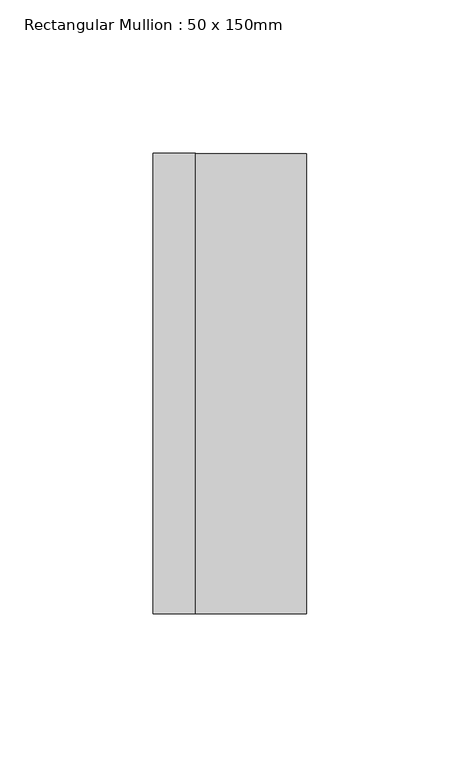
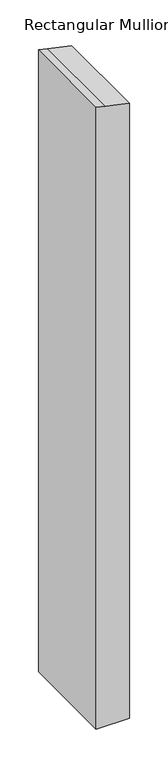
"""IFC4 building model written with IfcOpenShell, lengths in millimetres: member geometry, Rectangular Mullion : 50 x 150mm."""

import ifcopenshell
import ifcopenshell.guid

model = None  # the IFC model being written
_history = None  # IfcOwnerHistory: only IFC2X3 demands one
_inside = {}  # id of a spatial element -> (the spatial element, [elements in it])
_under = {}  # id of a project, library or spatial element -> (it, [spatial elements below it])
_declared = {}  # id of a project -> (the project, [libraries it declares])
_typed = {}  # id of a type object -> (the type object, [elements of that type])
_made_of = {}  # id of a material, layer set ... -> (it, [elements and type objects made of it])


def new_model(schema):
    """Start an empty IFC model of exactly this schema.

    Asked for "IFC4X3", IfcOpenShell would pick the latest addendum, in which some entities
    have other attributes; the version numbers below select the first issue.
    IFC2X3 requires an IfcOwnerHistory on every rooted entity: one is made here for all.
    """
    global model, _history
    if schema == "IFC4X3":
        model = ifcopenshell.file(schema_version=(4, 3, 0, 0))
    else:
        model = ifcopenshell.file(schema=schema)
    _inside.clear()
    _under.clear()
    _declared.clear()
    _typed.clear()
    _made_of.clear()
    _history = None
    if model.schema == "IFC2X3":
        org = make("IfcOrganization", Name="unknown")
        user = make(
            "IfcPersonAndOrganization",
            ThePerson=make("IfcPerson", FamilyName="unknown"),
            TheOrganization=org,
        )
        app = make(
            "IfcApplication",
            ApplicationDeveloper=org,
            Version="unknown",
            ApplicationFullName="unknown",
            ApplicationIdentifier="unknown",
        )
        _history = make(
            "IfcOwnerHistory",
            OwningUser=user,
            OwningApplication=app,
            ChangeAction="ADDED",
            CreationDate=0,
        )
    return model


def make(cls, **values):
    """One entity of the class cls with the attributes given. An attribute that is None is left unset."""
    return model.create_entity(
        cls, **{name: value for name, value in values.items() if value is not None}
    )


def rooted(cls, **values):
    """An entity with a GlobalId (a new one), such as an element, a storey or a relation."""
    return make(cls, GlobalId=ifcopenshell.guid.new(), OwnerHistory=_history, **values)


def si_unit(unit_type, name, prefix=None):
    """IfcSIUnit, for example si_unit("LENGTHUNIT", "METRE", prefix="MILLI")."""
    return make("IfcSIUnit", UnitType=unit_type, Prefix=prefix, Name=name)


def assignment(units):
    """IfcUnitAssignment: the units of a project."""
    return None if units is None else make("IfcUnitAssignment", Units=units)


def point(xyz):
    """IfcCartesianPoint."""
    return None if xyz is None else make("IfcCartesianPoint", Coordinates=xyz)


def direction(xyz):
    """IfcDirection."""
    return None if xyz is None else make("IfcDirection", DirectionRatios=xyz)


def frame(location, z_axis=None, x_axis=None):
    """IfcAxis2Placement3D, a coordinate frame: its origin and axes. An axis left out is left unset."""
    return make(
        "IfcAxis2Placement3D",
        Location=point(location),
        Axis=direction(z_axis),
        RefDirection=direction(x_axis),
    )


def origin():
    """The frame at (0, 0, 0) with its axes left unset."""
    return frame((0.0, 0.0, 0.0))


def place(relative_to, where):
    """IfcLocalPlacement: puts the frame where relative to a parent placement (None: the world)."""
    return make(
        "IfcLocalPlacement", PlacementRelTo=relative_to, RelativePlacement=where
    )


def context(
    kind, dimensions, precision=None, world=None, true_north=None, identifier=None
):
    """IfcGeometricRepresentationContext, for example the 3D "Model" context."""
    return make(
        "IfcGeometricRepresentationContext",
        ContextIdentifier=identifier,
        ContextType=kind,
        CoordinateSpaceDimension=dimensions,
        Precision=precision,
        WorldCoordinateSystem=world,
        TrueNorth=true_north,
    )


def project(units=None, contexts=None):
    """IfcProject with its units and contexts."""
    return rooted(
        "IfcProject",
        Name="project",
        RepresentationContexts=contexts,
        UnitsInContext=assignment(units),
    )


def spatial(cls, under=None, at=None, **own):
    """A site, building, storey or space (cls), placed at a placement, below another one or the project."""
    s = rooted(cls, ObjectPlacement=at, **own)
    if under is not None:
        _under.setdefault(under.id(), (under, []))[1].append(s)
    return s


def polyline(points):
    """IfcPolyline through the points."""
    return make("IfcPolyline", Points=[point(p) for p in points])


def outline(outer, holes=None, kind="AREA"):
    """IfcArbitraryClosedProfileDef: a profile drawn as a closed curve; with holes, ...WithVoids."""
    if holes is None:
        return make("IfcArbitraryClosedProfileDef", ProfileType=kind, OuterCurve=outer)
    return make(
        "IfcArbitraryProfileDefWithVoids",
        ProfileType=kind,
        OuterCurve=outer,
        InnerCurves=holes,
    )


def extrude(swept, where, along, depth):
    """IfcExtrudedAreaSolid: the profile swept, set in the frame where, extruded along a direction by depth."""
    return make(
        "IfcExtrudedAreaSolid",
        SweptArea=swept,
        Position=where,
        ExtrudedDirection=direction(along),
        Depth=depth,
    )


def shape(context_of_items, identifier, shape_type, items):
    """IfcShapeRepresentation: the items that make up one representation, for example the "Body"."""
    return make(
        "IfcShapeRepresentation",
        ContextOfItems=context_of_items,
        RepresentationIdentifier=identifier,
        RepresentationType=shape_type,
        Items=items,
    )


def source(mapping_origin, context_of_items, identifier, shape_type, items):
    """IfcRepresentationMap: a shape defined once, which mapped items show again and again."""
    return make(
        "IfcRepresentationMap",
        MappingOrigin=mapping_origin,
        MappedRepresentation=shape(context_of_items, identifier, shape_type, items),
    )


def transform(
    local_origin,
    x_axis=None,
    y_axis=None,
    z_axis=None,
    scale=None,
    scale2=None,
    scale3=None,
    uniform=True,
):
    """IfcCartesianTransformationOperator3D, or its non-uniform kind. x_axis, y_axis, z_axis: its Axis1, 2, 3."""
    if uniform:
        return make(
            "IfcCartesianTransformationOperator3D",
            Axis1=direction(x_axis),
            Axis2=direction(y_axis),
            LocalOrigin=point(local_origin),
            Scale=scale,
            Axis3=direction(z_axis),
        )
    return make(
        "IfcCartesianTransformationOperator3DnonUniform",
        Axis1=direction(x_axis),
        Axis2=direction(y_axis),
        LocalOrigin=point(local_origin),
        Scale=scale,
        Axis3=direction(z_axis),
        Scale2=scale2,
        Scale3=scale3,
    )


def mapped(mapping_source, mapping_target):
    """IfcMappedItem: shows the shape of a source again, moved by a transform."""
    return make(
        "IfcMappedItem", MappingSource=mapping_source, MappingTarget=mapping_target
    )


def made_of(thing, what):
    """Note that an element or type object is made of a material, layer set ...; save() writes the relation."""
    if what is not None:
        _made_of.setdefault(what.id(), (what, []))[1].append(thing)
    return thing


def element(
    cls,
    number,
    at=None,
    inside=None,
    cuts=None,
    type_object=None,
    material=None,
    context=None,
    identifier="Body",
    shape_type=None,
    held_by="IfcProductDefinitionShape",
    body=None,
    shapes=None,
    **own,
):
    """One element of the class cls, such as IfcWall. Its Tag is "e" and its number.

    at: its placement. inside: the storey or other place that contains it. cuts: it is an
    opening in that element (IfcRelVoidsElement). A single representation is given by context,
    identifier, shape_type and body (its items); several are given by shapes. held_by: the class
    of the entity that holds the representations. save() writes the other relations.
    """
    e = rooted(cls, Tag="e%d" % number, ObjectPlacement=at, **own)
    if body is not None:
        shapes = [shape(context, identifier, shape_type, body)]
    if shapes is not None:
        e.Representation = make(held_by, Representations=shapes)
    if inside is not None:
        _inside.setdefault(inside.id(), (inside, []))[1].append(e)
    if cuts is not None:
        rooted(
            "IfcRelVoidsElement", RelatingBuildingElement=cuts, RelatedOpeningElement=e
        )
    if type_object is not None:
        _typed.setdefault(type_object.id(), (type_object, []))[1].append(e)
    return made_of(e, material)


def aggregate(whole, parts):
    """IfcRelAggregates: a whole, such as a stair, and the parts it consists of."""
    return rooted("IfcRelAggregates", RelatingObject=whole, RelatedObjects=parts)


def save(model, path):
    """Write the relations noted so far, then the file.

    IfcRelAggregates (storeys below a building ...), IfcRelContainedInSpatialStructure (elements
    in a storey), IfcRelDefinesByType, IfcRelAssociatesMaterial and IfcRelDeclares: one each for
    every whole, place, type object, material and project.
    """
    for whole, parts in _under.values():
        aggregate(whole, parts)
    for where, things in _inside.values():
        rooted(
            "IfcRelContainedInSpatialStructure",
            RelatedElements=things,
            RelatingStructure=where,
        )
    for kind, things in _typed.values():
        rooted("IfcRelDefinesByType", RelatedObjects=things, RelatingType=kind)
    for what, things in _made_of.values():
        rooted("IfcRelAssociatesMaterial", RelatedObjects=things, RelatingMaterial=what)
    for by, libraries in _declared.values():
        rooted("IfcRelDeclares", RelatingContext=by, RelatedDefinitions=libraries)
    model.write(path)


def rectangular_mullion_50_x_150mm_8a843dcc(model_context):
    return source(origin(), model_context, "Body", "SweptSolid", [
        extrude(outline(polyline([(-57.1996395, 25.0), (-48.7137948, -11.2686283), (-45.5737413, -25.0), (-1030.7305539, -25.0), (-1030.7305539, 25.0), (-57.1996395, 25.0)])), frame((0.0, -75.0, 0.0), z_axis=(0.0, 1.0, 0.0), x_axis=(0.0, 0.0, 1.0)), (0.0, 0.0, 1.0), 150.0),
    ])


if __name__ == "__main__":
    model = new_model("IFC4")
    model_context = context("Model", 3, world=origin())
    ifc_project = project(units=[si_unit("LENGTHUNIT", "METRE", prefix="MILLI")], contexts=[model_context])
    site = spatial("IfcSite", under=ifc_project)
    building = spatial("IfcBuilding", under=site)
    placement = place(None, origin())
    rectangular_mullion_50_x_150mm_shape = rectangular_mullion_50_x_150mm_8a843dcc(model_context)
    element("IfcMember", 1, ObjectType="Rectangular Mullion : 50 x 150mm", at=placement, inside=building, context=model_context, shape_type="MappedRepresentation", body=[
        mapped(rectangular_mullion_50_x_150mm_shape, transform((0.0, 0.0, 0.0), x_axis=(1.0, 0.0, 0.0), y_axis=(0.0, 1.0, 0.0), z_axis=(0.0, 0.0, 1.0))),
    ])
    save(model, "model.ifc")
